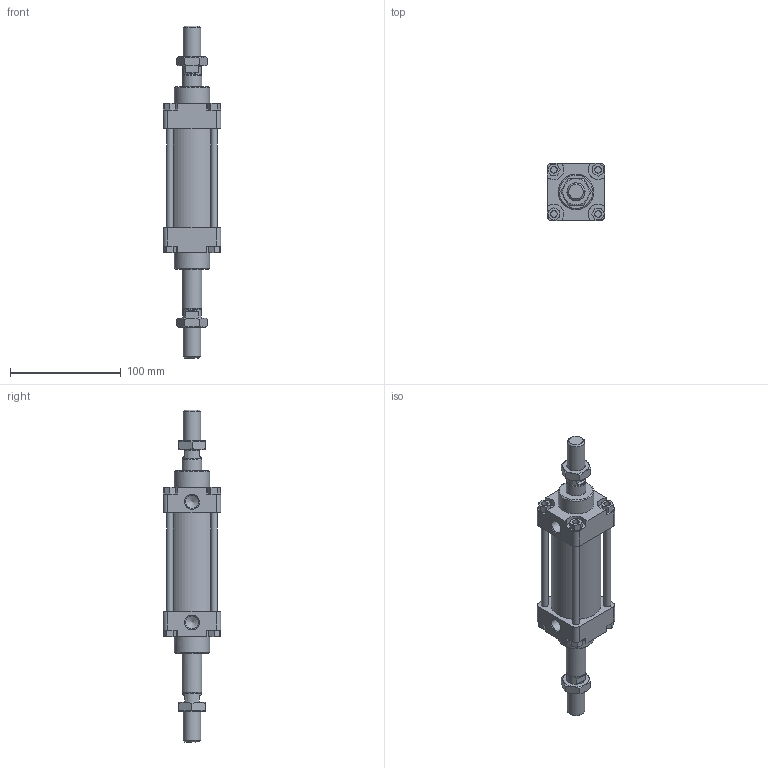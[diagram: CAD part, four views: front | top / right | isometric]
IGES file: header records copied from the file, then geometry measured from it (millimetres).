
Global section: file name: 1303_040_0025_02A; native system: Autodesk Inventor 2014; preprocessor: unknown; author: A. Manieri; date: 20161123.144147; units: millimetre
Bounding box: 52 x 52 x 300 mm (x, y, z)
Volume: 295374.7 mm3; surface area: 89892.2 mm2
Topology: 10 solids, 10 shells, 189 faces, 471 edges, 314 vertices
Faces by surface type: bspline 189
